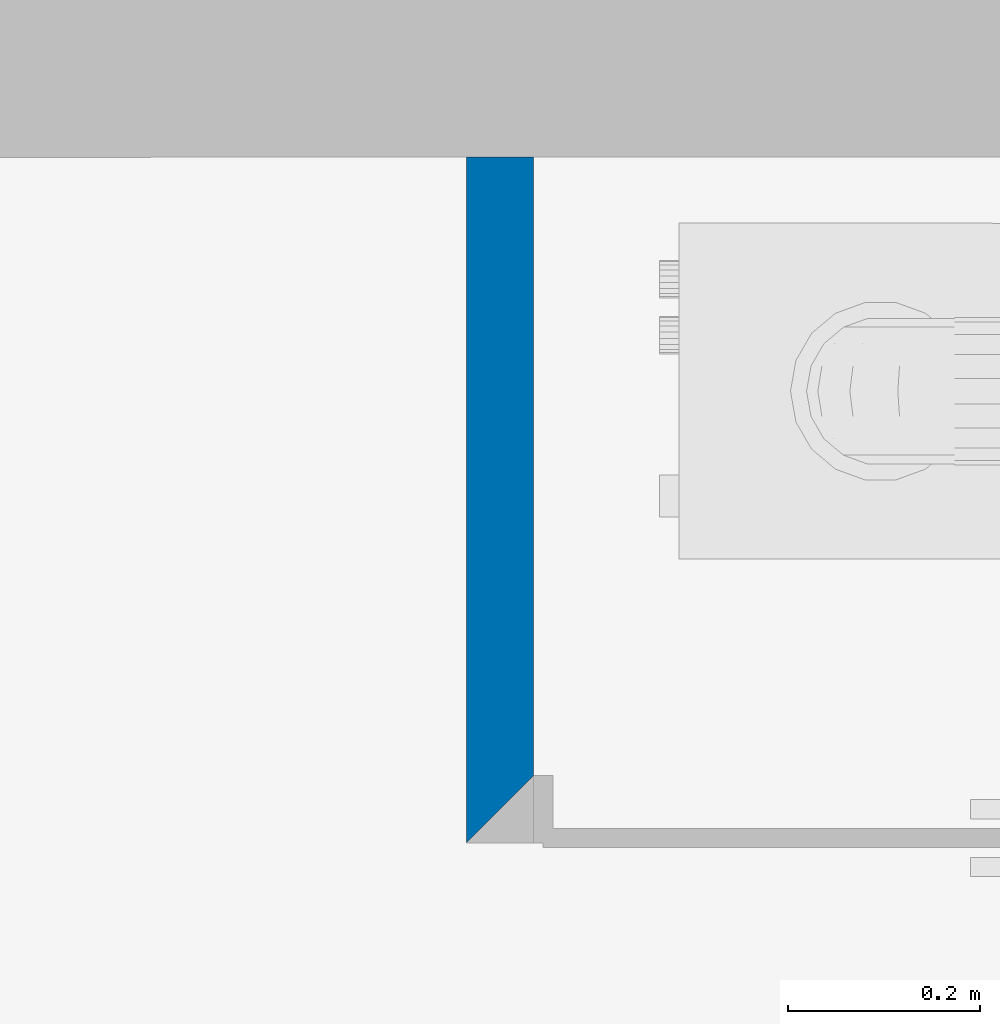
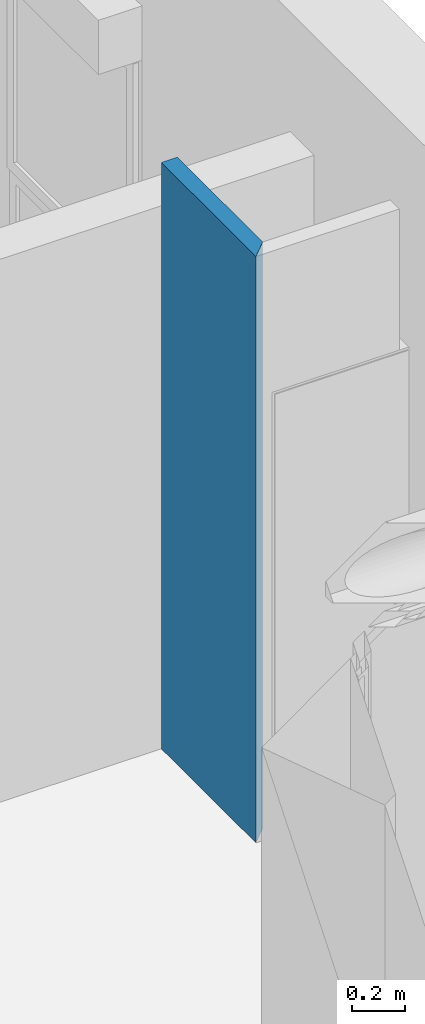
# One storey, part 17 of 165: 1 wall.
"""IFC2X3 building model written with IfcOpenShell, lengths in millimetres."""

from ifc_helpers import new_model, entity, si_unit, converted_unit, derived_unit, money_unit, direction, frame, origin_with_axes, place, context, subcontext, project, spatial, polyline, outline, extrude, material, layer, layer_set, layer_usage, type_object, element, save


model = new_model("IFC2X3")

# Units and contexts
model_context = context("Model", 3, precision=0.01, world=origin_with_axes(), true_north=direction((0.0, 1.0)))
body_context = subcontext(model_context, "Body", "Model", "MODEL_VIEW")
ifc_project = project(units=[si_unit("LENGTHUNIT", "METRE", prefix="MILLI"), si_unit("AREAUNIT", "SQUARE_METRE"), si_unit("VOLUMEUNIT", "CUBIC_METRE"), converted_unit("PLANEANGLEUNIT", "DEGREE", entity("IfcPlaneAngleMeasure", 0.0174532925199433), si_unit("PLANEANGLEUNIT", "RADIAN"), dimensions=[0, 0, 0, 0, 0, 0, 0]), money_unit("USD"), converted_unit("TIMEUNIT", "Year", entity("IfcTimeMeasure", 31557600.0), si_unit("TIMEUNIT", "SECOND"), dimensions=[0, 0, 1, 0, 0, 0, 0]), si_unit("MASSUNIT", "GRAM", prefix="KILO"), si_unit("THERMODYNAMICTEMPERATUREUNIT", "DEGREE_CELSIUS"), si_unit("LUMINOUSINTENSITYUNIT", "LUMEN"), si_unit("ENERGYUNIT", "JOULE", prefix="MEGA"), derived_unit("THERMALCONDUCTANCEUNIT", [(si_unit("POWERUNIT", "WATT"), 1), (si_unit("LENGTHUNIT", "METRE"), -1), (si_unit("THERMODYNAMICTEMPERATUREUNIT", "KELVIN"), -1)]), derived_unit("SPECIFICHEATCAPACITYUNIT", [(si_unit("ENERGYUNIT", "JOULE"), 1), (si_unit("MASSUNIT", "GRAM", prefix="KILO"), -1), (si_unit("THERMODYNAMICTEMPERATUREUNIT", "KELVIN"), -1)]), derived_unit("MASSDENSITYUNIT", [(si_unit("MASSUNIT", "GRAM", prefix="KILO"), 1), (si_unit("VOLUMEUNIT", "CUBIC_METRE"), -1)])], contexts=[model_context])

# Site, building, storey
site_placement = place(None, origin_with_axes())
site = spatial("IfcSite", under=ifc_project, at=site_placement, Name="Site", CompositionType="ELEMENT")
building_placement = place(site_placement, origin_with_axes())
building = spatial("IfcBuilding", under=site, at=building_placement, Name="Bâtiment", CompositionType="ELEMENT")
storey_placement = place(building_placement, frame((0.0, 0.0, 8500.0), z_axis=(0.0, 0.0, 1.0), x_axis=(1.0, 0.0, 0.0)))
storey = spatial("IfcBuildingStorey", under=building, at=storey_placement, Name="Etage 2", CompositionType="ELEMENT", Elevation=8500.0)

# Wall
ifc_material = material(Name="Hachure solide 268963992")
ifc_layer = layer(ifc_material, 70.0, ventilated="UNKNOWN")
ifc_layer_set = layer_set([ifc_layer], Name="Cloison 70 0826278243")
ifc_layer_usage = layer_usage(ifc_layer_set, "AXIS2", "NEGATIVE", 70.0)
wall_type = type_object("IfcWallType", Name="Cloison 70 0826278243 70", PredefinedType="NOTDEFINED")
wall_placement = place(storey_placement, frame((2233350.851378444, -652412.6142773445, 0.0), z_axis=(0.0, 0.0, 1.0), x_axis=(0.0, -1.0, 0.0)))
element("IfcWallStandardCase", 1, at=wall_placement, inside=storey, type_object=wall_type, material=ifc_layer_usage, Name="Mur-149", context=body_context, shape_type="SweptSolid", body=[
    extrude(outline(polyline([(0.0, 0.0), (714.3221848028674, 0.0), (644.3221848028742, 70.00000000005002), (0.0, 70.00000000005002), (0.0, 0.0)])), origin_with_axes(), (0.0, 0.0, 1.0), 2700.0),
])

save(model, "model.ifc")
